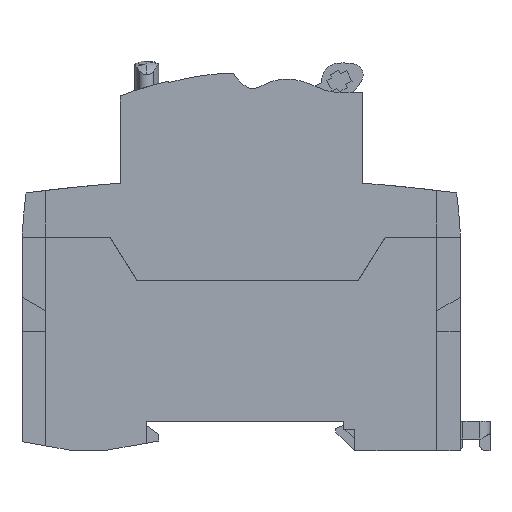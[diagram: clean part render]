
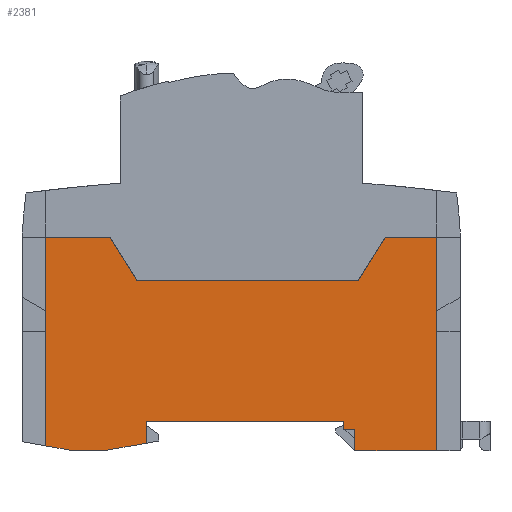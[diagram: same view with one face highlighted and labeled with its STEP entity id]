
A CAD part, left-side view. The second image highlights one B-rep face of the part: STEP entity #2381.
In plain terms, the highlighted planar face has unit normal (-1, 0, 0).
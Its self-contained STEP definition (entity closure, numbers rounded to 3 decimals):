
#2=DIRECTION('',(0.,0.,-1.));
#3=VECTOR('',#2,39.5);
#4=CARTESIAN_POINT('',(-17.9,-36.15,19.75));
#5=LINE('',#4,#3);
#6=DIRECTION('',(0.,1.,0.));
#7=VECTOR('',#6,15.15);
#8=CARTESIAN_POINT('',(-17.9,-36.15,-19.75));
#9=LINE('',#8,#7);
#10=DIRECTION('',(0.,0.,1.));
#11=VECTOR('',#10,4.);
#12=CARTESIAN_POINT('',(-17.9,-21.,-19.75));
#13=LINE('',#12,#11);
#14=DIRECTION('',(0.,1.,0.));
#15=VECTOR('',#14,2.);
#16=CARTESIAN_POINT('',(-17.9,-21.,-15.75));
#17=LINE('',#16,#15);
#18=DIRECTION('',(0.,0.,1.));
#19=VECTOR('',#18,1.5);
#20=CARTESIAN_POINT('',(-17.9,-19.,-15.75));
#21=LINE('',#20,#19);
#22=DIRECTION('',(0.,1.,0.));
#23=VECTOR('',#22,36.5);
#24=CARTESIAN_POINT('',(-17.9,-19.,-14.25));
#25=LINE('',#24,#23);
#26=DIRECTION('',(0.,0.985,-0.174));
#27=VECTOR('',#26,8.225);
#28=CARTESIAN_POINT('',(-17.9,17.5,-18.322));
#29=LINE('',#28,#27);
#30=DIRECTION('',(0.,1.,0.));
#31=VECTOR('',#30,5.2);
#32=CARTESIAN_POINT('',(-17.9,25.6,-19.75));
#33=LINE('',#32,#31);
#34=DIRECTION('',(0.,0.985,0.174));
#35=VECTOR('',#34,5.433);
#36=CARTESIAN_POINT('',(-17.9,30.8,-19.75));
#37=LINE('',#36,#35);
#38=DIRECTION('',(0.,0.,-1.));
#39=VECTOR('',#38,38.557);
#40=CARTESIAN_POINT('',(-17.9,36.15,19.75));
#41=LINE('',#40,#39);
#42=DIRECTION('',(0.,-1.,0.));
#43=VECTOR('',#42,11.9);
#44=CARTESIAN_POINT('',(-17.9,36.15,19.75));
#45=LINE('',#44,#43);
#46=DIRECTION('',(0.,-0.53,-0.848));
#47=VECTOR('',#46,9.434);
#48=CARTESIAN_POINT('',(-17.9,24.25,19.75));
#49=LINE('',#48,#47);
#50=DIRECTION('',(0.,-1.,0.));
#51=VECTOR('',#50,40.87);
#52=CARTESIAN_POINT('',(-17.9,19.25,11.75));
#53=LINE('',#52,#51);
#54=DIRECTION('',(0.,-0.528,0.849));
#55=VECTOR('',#54,9.423);
#56=CARTESIAN_POINT('',(-17.9,-21.62,11.75));
#57=LINE('',#56,#55);
#58=DIRECTION('',(0.,-1.,0.));
#59=VECTOR('',#58,9.55);
#60=CARTESIAN_POINT('',(-17.9,-26.6,19.75));
#61=LINE('',#60,#59);
#1206=DIRECTION('',(0.,0.,1.));
#1207=VECTOR('',#1206,4.072);
#1208=CARTESIAN_POINT('',(-17.9,17.5,-18.322));
#1209=LINE('',#1208,#1207);
#1762=CARTESIAN_POINT('',(-17.9,24.25,19.75));
#1763=CARTESIAN_POINT('',(-17.9,19.25,11.75));
#1764=VERTEX_POINT('',#1762);
#1765=VERTEX_POINT('',#1763);
#1766=CARTESIAN_POINT('',(-17.9,-21.62,11.75));
#1767=VERTEX_POINT('',#1766);
#1768=CARTESIAN_POINT('',(-17.9,-26.6,19.75));
#1769=VERTEX_POINT('',#1768);
#1770=CARTESIAN_POINT('',(-17.9,-21.,-19.75));
#1771=CARTESIAN_POINT('',(-17.9,-21.,-15.75));
#1772=VERTEX_POINT('',#1770);
#1773=VERTEX_POINT('',#1771);
#1774=CARTESIAN_POINT('',(-17.9,-19.,-15.75));
#1775=VERTEX_POINT('',#1774);
#1776=CARTESIAN_POINT('',(-17.9,-19.,-14.25));
#1777=VERTEX_POINT('',#1776);
#1778=CARTESIAN_POINT('',(-17.9,17.5,-14.25));
#1779=VERTEX_POINT('',#1778);
#1780=CARTESIAN_POINT('',(-17.9,25.6,-19.75));
#1781=CARTESIAN_POINT('',(-17.9,30.8,-19.75));
#1782=VERTEX_POINT('',#1780);
#1783=VERTEX_POINT('',#1781);
#1970=CARTESIAN_POINT('',(-17.9,17.5,-18.322));
#1971=VERTEX_POINT('',#1970);
#2036=CARTESIAN_POINT('',(-17.9,-36.15,19.75));
#2037=CARTESIAN_POINT('',(-17.9,-36.15,-19.75));
#2038=VERTEX_POINT('',#2036);
#2039=VERTEX_POINT('',#2037);
#2040=CARTESIAN_POINT('',(-17.9,36.15,19.75));
#2041=CARTESIAN_POINT('',(-17.9,36.15,-18.807));
#2042=VERTEX_POINT('',#2040);
#2043=VERTEX_POINT('',#2041);
#2342=CARTESIAN_POINT('',(-17.9,0.,0.));
#2343=DIRECTION('',(1.,0.,0.));
#2344=DIRECTION('',(0.,0.,-1.));
#2345=AXIS2_PLACEMENT_3D('',#2342,#2343,#2344);
#2346=PLANE('',#2345);
#2348=ORIENTED_EDGE('',*,*,#2347,.T.);
#2350=ORIENTED_EDGE('',*,*,#2349,.T.);
#2352=ORIENTED_EDGE('',*,*,#2351,.T.);
#2354=ORIENTED_EDGE('',*,*,#2353,.T.);
#2356=ORIENTED_EDGE('',*,*,#2355,.T.);
#2358=ORIENTED_EDGE('',*,*,#2357,.T.);
#2360=ORIENTED_EDGE('',*,*,#2359,.F.);
#2362=ORIENTED_EDGE('',*,*,#2361,.T.);
#2364=ORIENTED_EDGE('',*,*,#2363,.T.);
#2366=ORIENTED_EDGE('',*,*,#2365,.T.);
#2368=ORIENTED_EDGE('',*,*,#2367,.F.);
#2370=ORIENTED_EDGE('',*,*,#2369,.T.);
#2372=ORIENTED_EDGE('',*,*,#2371,.T.);
#2374=ORIENTED_EDGE('',*,*,#2373,.T.);
#2376=ORIENTED_EDGE('',*,*,#2375,.T.);
#2378=ORIENTED_EDGE('',*,*,#2377,.T.);
#2379=EDGE_LOOP('',(#2348,#2350,#2352,#2354,#2356,#2358,#2360,#2362,#2364,#2366,
#2368,#2370,#2372,#2374,#2376,#2378));
#2380=FACE_OUTER_BOUND('',#2379,.F.);
#2381=ADVANCED_FACE('',(#2380),#2346,.F.);
#2347=EDGE_CURVE('',#2038,#2039,#5,.T.);
#2349=EDGE_CURVE('',#2039,#1772,#9,.T.);
#2351=EDGE_CURVE('',#1772,#1773,#13,.T.);
#2353=EDGE_CURVE('',#1773,#1775,#17,.T.);
#2355=EDGE_CURVE('',#1775,#1777,#21,.T.);
#2357=EDGE_CURVE('',#1777,#1779,#25,.T.);
#2359=EDGE_CURVE('',#1971,#1779,#1209,.T.);
#2361=EDGE_CURVE('',#1971,#1782,#29,.T.);
#2363=EDGE_CURVE('',#1782,#1783,#33,.T.);
#2365=EDGE_CURVE('',#1783,#2043,#37,.T.);
#2367=EDGE_CURVE('',#2042,#2043,#41,.T.);
#2369=EDGE_CURVE('',#2042,#1764,#45,.T.);
#2371=EDGE_CURVE('',#1764,#1765,#49,.T.);
#2373=EDGE_CURVE('',#1765,#1767,#53,.T.);
#2375=EDGE_CURVE('',#1767,#1769,#57,.T.);
#2377=EDGE_CURVE('',#1769,#2038,#61,.T.);
